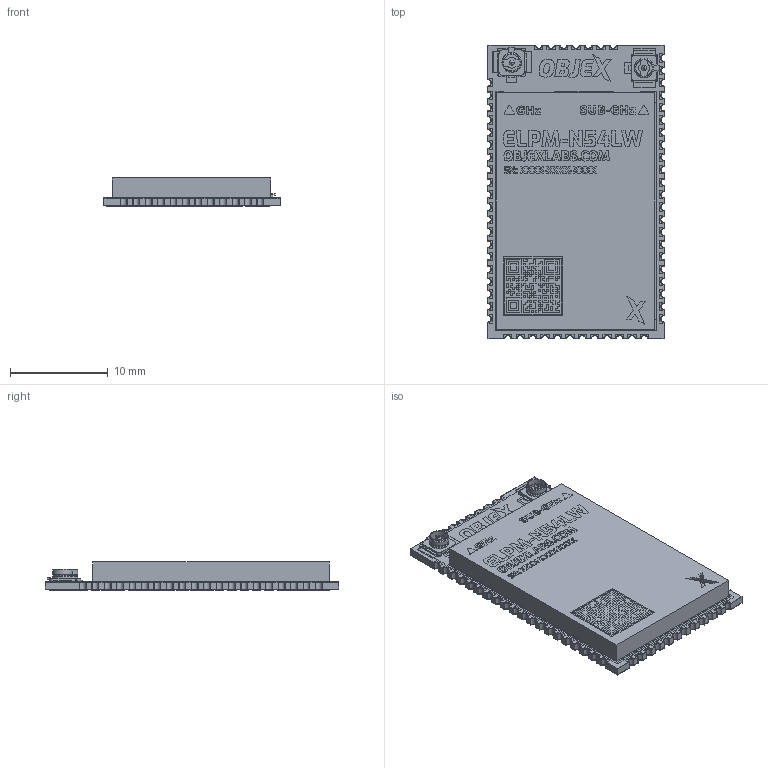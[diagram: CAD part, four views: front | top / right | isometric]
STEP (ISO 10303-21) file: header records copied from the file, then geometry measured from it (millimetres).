
FILE_DESCRIPTION(/* description */ ('KiCad electronic assembly'),/* implementation_level */ '2;1');
FILE_NAME(/* name */ 'OBJEX-ELPM-N54LW_PCB-rev1.0-UFL.step',/* time_stamp */ '2026-08-24T15:52:56+02:00',/* author */ (''),/* organization */ (''),/* preprocessor_version */ 'ST-DEVELOPER v20.1',/* originating_system */ 'Autodesk Translation Framework v15.8.0.0',/* authorisation */ '');
FILE_SCHEMA (('AUTOMOTIVE_DESIGN { 1 0 10303 214 3 1 1 }'));
Products named in the file (12): ELPM-N54LW 1; ELPM-N54LW; ELPM-S3LW/C6LW/N52LW v29; OBJEX-ELPM-N54LW_PCB-rev1.0-UFL_copper; OBJEX-ELPM-N54LW_PCB-rev1.0-UFL_pad; OBJEX-ELPM-N54LW_PCB-rev1.0-UFL_silkscreen; OBJEX-ELPM-N54LW_PCB-rev1.0-UFL_silkscreen_1; OBJEX-ELPM-N54LW_PCB-rev1.0-UFL_soldermask; OBJEX-ELPM-N54LW_PCB-rev1.0-UFL_soldermask_1; OBJEX-ELPM-N54LW_PCB-rev1.0-UFL_PCB; U.FL-R-SMT-1_10_; U.FL-R-SMT-1(10)
Assembly tree (12 placements, depth 3):
  ELPM-N54LW 1
    ELPM-N54LW
      ELPM-S3LW/C6LW/N52LW v29
    U.FL-R-SMT-1_10_  x2
      U.FL-R-SMT-1(10)
    OBJEX-ELPM-N54LW_PCB-rev1.0-UFL_copper
    OBJEX-ELPM-N54LW_PCB-rev1.0-UFL_pad
    OBJEX-ELPM-N54LW_PCB-rev1.0-UFL_silkscreen
    OBJEX-ELPM-N54LW_PCB-rev1.0-UFL_silkscreen_1
    OBJEX-ELPM-N54LW_PCB-rev1.0-UFL_soldermask
    OBJEX-ELPM-N54LW_PCB-rev1.0-UFL_soldermask_1
    OBJEX-ELPM-N54LW_PCB-rev1.0-UFL_PCB
Bounding box: 18 x 30 x 2.87 mm (x, y, z)
Volume: 526 mm3; surface area: 5494.9 mm2
Topology: 267 solids, 449 shells, 4931 faces, 16513 edges, 12348 vertices
Faces by surface type: plane 3982, bspline 586, cylinder 357, cone 6
Full cylindrical faces by diameter (mm): 0.5 x2, 1.72 x2, 1.86 x2, 2 x4
Entity records: 180478 total; most frequent: CARTESIAN_POINT 41000, ORIENTED_EDGE 28348, DIRECTION 24836, EDGE_CURVE 16335, LINE 14216, VECTOR 14216, VERTEX_POINT 12232, AXIS2_PLACEMENT_3D 5310
